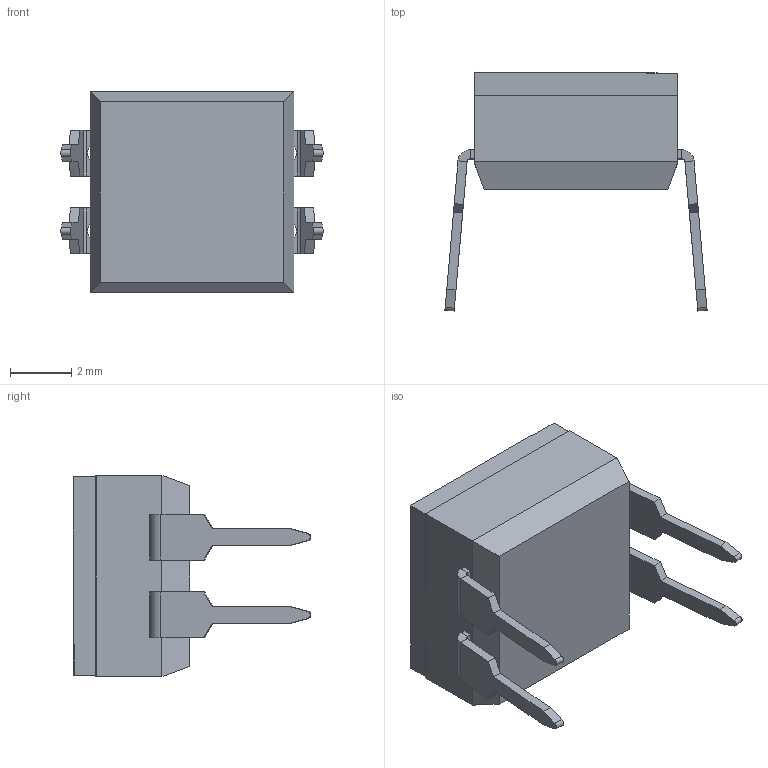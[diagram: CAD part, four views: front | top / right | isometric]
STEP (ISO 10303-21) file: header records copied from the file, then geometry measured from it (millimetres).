
FILE_DESCRIPTION (( 'STEP AP203' ), '1' );
FILE_NAME ('209-2LPS.STEP', '2019-05-24T06:59:27', ( '' ), ( '' ), 'SwSTEP 2.0', 'SolidWorks 2019', '' );
FILE_SCHEMA (( 'CONFIG_CONTROL_DESIGN' ));
Length unit declared in the file: millimetre
Products named in the file (5): 219-56-001; 209-02-202 for 209; 209-83-001-06-01 lead frame; 209-40-202 for 209; 209-2LPS
Assembly tree (6 placements, depth 2):
  209-2LPS
    209-02-202 for 209
    209-40-202 for 209
    219-56-001  x2
    209-83-001-06-01 lead frame  x2
Bounding box: 8.55 x 7.76 x 6.56 mm (x, y, z)
Volume: 143.2 mm3; surface area: 483.4 mm2
Topology: 8 solids, 8 shells, 444 faces, 1154 edges, 744 vertices
Faces by surface type: plane 253, bspline 139, cylinder 44, sphere 8
Entity records: 18599 total; most frequent: CARTESIAN_POINT 10147, ORIENTED_EDGE 1868, DIRECTION 1154, EDGE_CURVE 934, LINE 612, VECTOR 612, VERTEX_POINT 612, EDGE_LOOP 390
